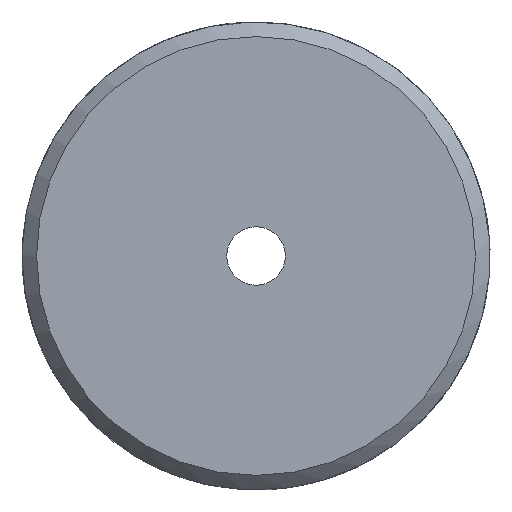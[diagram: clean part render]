
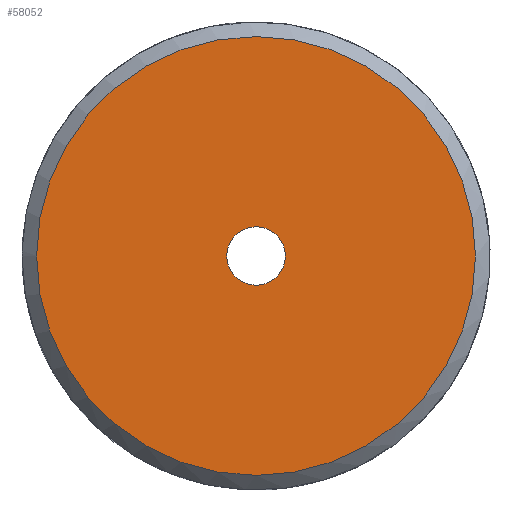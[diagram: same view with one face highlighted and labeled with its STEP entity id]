
A CAD part, left-side view. The second image highlights one B-rep face of the part: STEP entity #58052.
In plain terms, the highlighted planar face has unit normal (-1, 0, 0).
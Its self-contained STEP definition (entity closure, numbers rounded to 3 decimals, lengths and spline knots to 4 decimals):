
#18238=PLANE('',#56813);
#18242=ORIENTED_EDGE('',*,*,#23220,.T.);
#18243=ORIENTED_EDGE('',*,*,#23222,.F.);
#21578=CIRCLE('',#56811,7.5);
#21580=CIRCLE('',#56814,1.);
#22111=VERTEX_POINT('',#28158);
#22113=VERTEX_POINT('',#28163);
#23220=EDGE_CURVE('',#22111,#22111,#21578,.T.);
#23222=EDGE_CURVE('',#22113,#22113,#21580,.T.);
#24891=EDGE_LOOP('',(#18242));
#24892=EDGE_LOOP('',(#18243));
#25461=FACE_BOUND('',#24891,.T.);
#25462=FACE_BOUND('',#24892,.T.);
#26031=DIRECTION('',(-1.,0.,0.));
#26032=DIRECTION('',(0.,0.,-7.5));
#26035=DIRECTION('',(-1.,0.,0.));
#26036=DIRECTION('',(0.,1.,0.));
#26037=DIRECTION('',(-1.,0.,0.));
#26038=DIRECTION('',(0.,0.,1.));
#28158=CARTESIAN_POINT('',(31.7446,184.8195,-7.5));
#28159=CARTESIAN_POINT('',(31.7446,184.8195,0.));
#28162=CARTESIAN_POINT('',(31.7446,184.8195,-7.5));
#28163=CARTESIAN_POINT('',(31.7446,184.8195,1.));
#28164=CARTESIAN_POINT('',(31.7446,184.8195,0.));
#56811=AXIS2_PLACEMENT_3D('',#28159,#26031,#26032);
#56813=AXIS2_PLACEMENT_3D('',#28162,#26035,#26036);
#56814=AXIS2_PLACEMENT_3D('',#28164,#26037,#26038);
#58052=ADVANCED_FACE('',(#25461,#25462),#18238,.T.);
